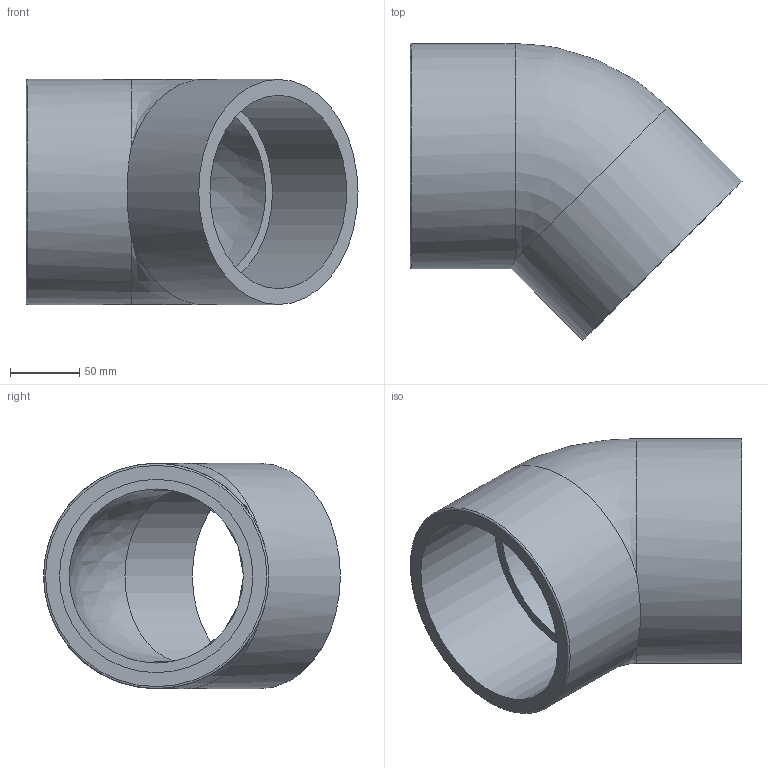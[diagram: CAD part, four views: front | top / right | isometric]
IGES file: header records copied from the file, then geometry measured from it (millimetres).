
Global section: file name: 054500140.ipt; native system: Autodesk Inventor 2015; preprocessor: unknown; author: KIM; date: 20171207.165615; units: millimetre
Bounding box: 240.29 x 214.79 x 163 mm (x, y, z)
Volume: 1336362.3 mm3; surface area: 214590.7 mm2
Topology: 1 solids, 1 shells, 11 faces, 26 edges, 17 vertices
Faces by surface type: revolution 4, plane 4, cylinder 2, bspline 1
Full cylindrical faces by diameter (mm): 163 x2
